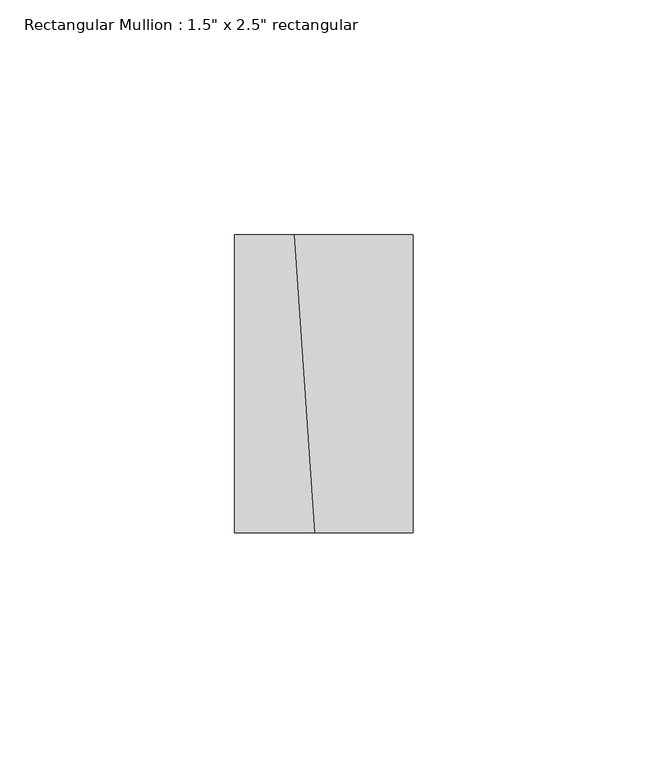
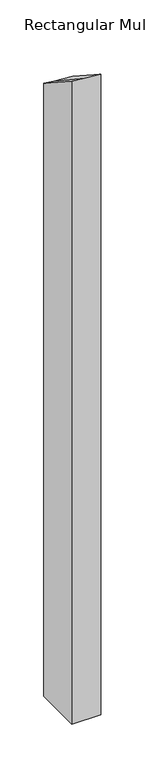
"""IFC4 building model written with IfcOpenShell, lengths in millimetres: member geometry."""

from ifc_helpers import new_model, si_unit, origin, place, context, project, spatial, faceted_brep, source, transform, mapped, element, save


def member_b87fc6c6(model_context):
    return source(origin(), model_context, "Body", "Brep", [
        faceted_brep([(19.05, 31.75, -909.7737348), (19.05, -31.75, -909.7737348), (-19.05, -31.75, -909.7737348), (-19.05, 31.75, -909.7737348), (-19.05, 31.75, -56.1002391), (-6.2758272, 31.75, -57.7945724), (19.05, 31.75, -59.9387361), (-19.05, -31.75, -14.9702694), (19.05, -31.75, -19.0199891), (-1.8729981, -31.75, -17.2485827)], [[[0, 1, 2, 3]], [[4, 5, 6, 0, 3]], [[7, 4, 3, 2]], [[8, 9, 7, 2, 1]], [[6, 8, 1, 0]], [[6, 5, 9, 8]], [[5, 4, 7, 9]]]),
    ])


if __name__ == "__main__":
    model = new_model("IFC4")
    model_context = context("Model", 3, world=origin())
    ifc_project = project(units=[si_unit("LENGTHUNIT", "METRE", prefix="MILLI")], contexts=[model_context])
    site = spatial("IfcSite", under=ifc_project)
    building = spatial("IfcBuilding", under=site)
    placement = place(None, origin())
    member_shape = member_b87fc6c6(model_context)
    element("IfcMember", 1, ObjectType="Rectangular Mullion : 1.5\" x 2.5\" rectangular", at=placement, inside=building, context=model_context, shape_type="MappedRepresentation", body=[
        mapped(member_shape, transform((0.0, 0.0, 0.0), x_axis=(1.0, 0.0, 0.0), y_axis=(0.0, 1.0, 0.0), z_axis=(0.0, 0.0, 1.0))),
    ])
    save(model, "model.ifc")
